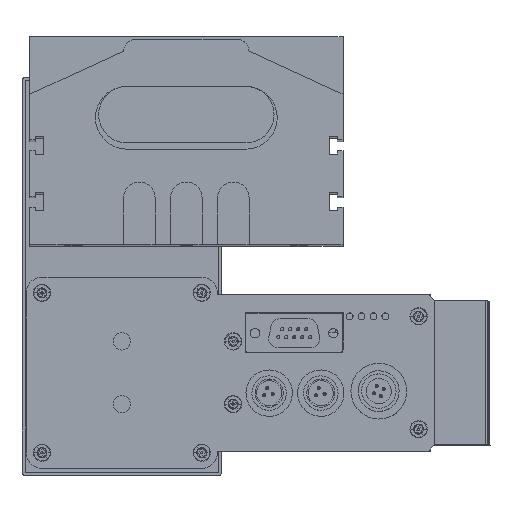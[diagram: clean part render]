
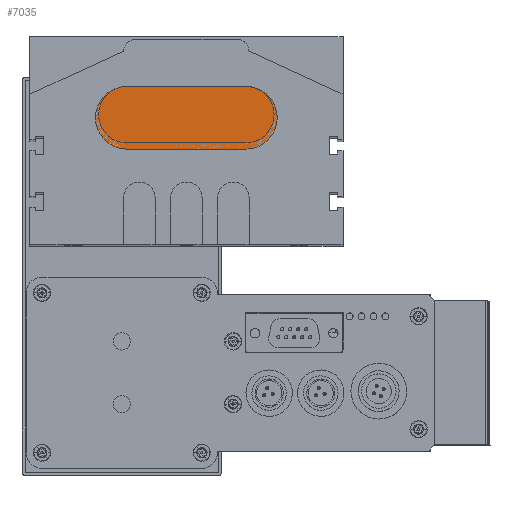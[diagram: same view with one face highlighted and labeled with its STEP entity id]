
A CAD part, top view. The second image highlights one B-rep face of the part: STEP entity #7035.
In plain terms, the highlighted planar face has unit normal (0, 0, 1).
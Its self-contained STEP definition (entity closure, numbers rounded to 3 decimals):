
#4605 = DIRECTION ( 'NONE',  ( 1., 0., 0. ) ) ;
#4606 = DIRECTION ( 'NONE',  ( 0., 0., 1. ) ) ;
#4607 = AXIS2_PLACEMENT_3D ( 'NONE', #4616, #4606, #4605 ) ;
#4608 = CIRCLE ( 'NONE', #4607, 10. ) ;
#4616 = CARTESIAN_POINT ( 'NONE',  ( 0., 10., 10. ) ) ;
#6796 = EDGE_CURVE ( 'NONE', #8872, #8855, #23282, .T. ) ;
#6838 = EDGE_LOOP ( 'NONE', ( #7009, #7067, #7220, #6865, #7020 ) ) ;
#6858 = EDGE_CURVE ( 'NONE', #8855, #6949, #23416, .T. ) ;
#6865 = ORIENTED_EDGE ( 'NONE', *, *, #6858, .T. ) ;
#6949 = VERTEX_POINT ( 'NONE', #23495 ) ;
#7009 = ORIENTED_EDGE ( 'NONE', *, *, #9020, .T. ) ;
#7020 = ORIENTED_EDGE ( 'NONE', *, *, #7105, .T. ) ;
#7035 = ADVANCED_FACE ( 'NONE', ( #23703 ), #23717, .T. ) ;
#7067 = ORIENTED_EDGE ( 'NONE', *, *, #28148, .T. ) ;
#7105 = EDGE_CURVE ( 'NONE', #6949, #9044, #23851, .T. ) ;
#7220 = ORIENTED_EDGE ( 'NONE', *, *, #6796, .T. ) ;
#8855 = VERTEX_POINT ( 'NONE', #27117 ) ;
#8872 = VERTEX_POINT ( 'NONE', #27136 ) ;
#9020 = EDGE_CURVE ( 'NONE', #9044, #9074, #27351, .T. ) ;
#9044 = VERTEX_POINT ( 'NONE', #27442 ) ;
#9074 = VERTEX_POINT ( 'NONE', #27521 ) ;
#23274 = DIRECTION ( 'NONE',  ( 1., 0., 0. ) ) ;
#23275 = VECTOR ( 'NONE', #23274, 1000. ) ;
#23281 = CARTESIAN_POINT ( 'NONE',  ( 0., 0., 10. ) ) ;
#23282 = LINE ( 'NONE', #23281, #23275 ) ;
#23409 = DIRECTION ( 'NONE',  ( -1., 0., 0. ) ) ;
#23410 = DIRECTION ( 'NONE',  ( 0., 0., 1. ) ) ;
#23411 = AXIS2_PLACEMENT_3D ( 'NONE', #23419, #23410, #23409 ) ;
#23416 = CIRCLE ( 'NONE', #23411, 10. ) ;
#23419 = CARTESIAN_POINT ( 'NONE',  ( 38., 10., 10. ) ) ;
#23495 = CARTESIAN_POINT ( 'NONE',  ( 38., 20., 10. ) ) ;
#23697 = DIRECTION ( 'NONE',  ( 0., 0., 1. ) ) ;
#23698 = CARTESIAN_POINT ( 'NONE',  ( 0., 10., 10. ) ) ;
#23703 = FACE_OUTER_BOUND ( 'NONE', #6838, .T. ) ;
#23712 = AXIS2_PLACEMENT_3D ( 'NONE', #23698, #23697, #23759 ) ;
#23717 = PLANE ( 'NONE',  #23712 ) ;
#23759 = DIRECTION ( 'NONE',  ( 1., 0., 0. ) ) ;
#23841 = DIRECTION ( 'NONE',  ( -1., 0., 0. ) ) ;
#23844 = VECTOR ( 'NONE', #23841, 1000. ) ;
#23850 = CARTESIAN_POINT ( 'NONE',  ( 0., 20., 10. ) ) ;
#23851 = LINE ( 'NONE', #23850, #23844 ) ;
#27117 = CARTESIAN_POINT ( 'NONE',  ( 38., 0., 10. ) ) ;
#27136 = CARTESIAN_POINT ( 'NONE',  ( 0., 0., 10. ) ) ;
#27351 = CIRCLE ( 'NONE', #27368, 10. ) ;
#27368 = AXIS2_PLACEMENT_3D ( 'NONE', #27422, #27421, #27420 ) ;
#27420 = DIRECTION ( 'NONE',  ( 1., 0., 0. ) ) ;
#27421 = DIRECTION ( 'NONE',  ( 0., 0., 1. ) ) ;
#27422 = CARTESIAN_POINT ( 'NONE',  ( 0., 10., 10. ) ) ;
#27442 = CARTESIAN_POINT ( 'NONE',  ( 0., 20., 10. ) ) ;
#27521 = CARTESIAN_POINT ( 'NONE',  ( -10., 10., 10. ) ) ;
#28148 = EDGE_CURVE ( 'NONE', #9074, #8872, #4608, .T. ) ;
